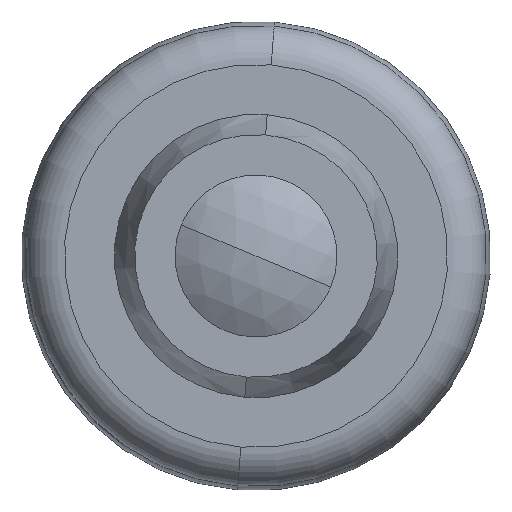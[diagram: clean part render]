
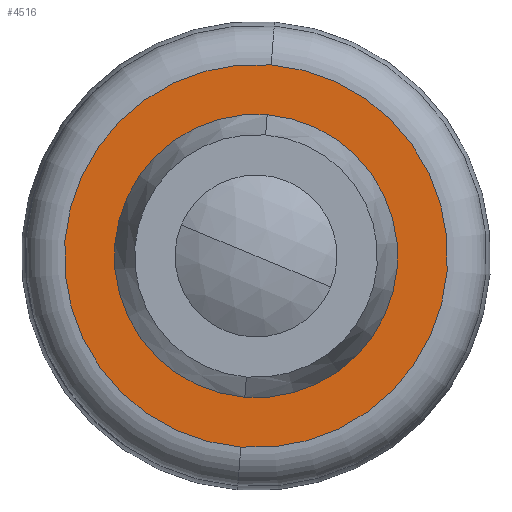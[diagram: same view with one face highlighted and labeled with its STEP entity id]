
A CAD part, left-side view. The second image highlights one B-rep face of the part: STEP entity #4516.
In plain terms, the highlighted planar face has unit normal (-1, 0, 0) as drawn and (1, 0, 0) by its records, which use the part's own axes.
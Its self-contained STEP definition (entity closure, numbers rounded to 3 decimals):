
#208 = CARTESIAN_POINT ( 'NONE',  ( 7.1, 0., 0. ) ) ;
#285 = AXIS2_PLACEMENT_3D ( 'NONE', #3506, #789, #5279 ) ;
#306 = DIRECTION ( 'NONE',  ( -1., 0., 0. ) ) ;
#344 = ORIENTED_EDGE ( 'NONE', *, *, #3434, .F. ) ;
#427 = FACE_BOUND ( 'NONE', #4484, .T. ) ;
#435 = CIRCLE ( 'NONE', #758, 1.75 ) ;
#442 = CARTESIAN_POINT ( 'NONE',  ( 7.1, 0., -1.75 ) ) ;
#758 = AXIS2_PLACEMENT_3D ( 'NONE', #4281, #306, #5612 ) ;
#789 = DIRECTION ( 'NONE',  ( -1., 0., 0. ) ) ;
#930 = CARTESIAN_POINT ( 'NONE',  ( 7.1, 0., -2.368 ) ) ;
#1083 = DIRECTION ( 'NONE',  ( 0., 0., 1. ) ) ;
#1388 = DIRECTION ( 'NONE',  ( -1., 0., 0. ) ) ;
#1511 = ORIENTED_EDGE ( 'NONE', *, *, #4151, .T. ) ;
#1880 = CIRCLE ( 'NONE', #4778, 2.368 ) ;
#1954 = DIRECTION ( 'NONE',  ( -1., 0., 0. ) ) ;
#1989 = VERTEX_POINT ( 'NONE', #442 ) ;
#2024 = ORIENTED_EDGE ( 'NONE', *, *, #3766, .F. ) ;
#2170 = CIRCLE ( 'NONE', #3009, 2.368 ) ;
#2230 = CIRCLE ( 'NONE', #2607, 1.75 ) ;
#2267 = VERTEX_POINT ( 'NONE', #930 ) ;
#2371 = CARTESIAN_POINT ( 'NONE',  ( 7.1, 0., 0. ) ) ;
#2392 = DIRECTION ( 'NONE',  ( 0., 0., 1. ) ) ;
#2452 = DIRECTION ( 'NONE',  ( -1., 0., 0. ) ) ;
#2607 = AXIS2_PLACEMENT_3D ( 'NONE', #2371, #1388, #2739 ) ;
#2739 = DIRECTION ( 'NONE',  ( 0., 0., 1. ) ) ;
#2841 = VERTEX_POINT ( 'NONE', #2914 ) ;
#2914 = CARTESIAN_POINT ( 'NONE',  ( 7.1, 0., 2.368 ) ) ;
#3009 = AXIS2_PLACEMENT_3D ( 'NONE', #208, #2452, #1083 ) ;
#3188 = EDGE_LOOP ( 'NONE', ( #344, #2024 ) ) ;
#3434 = EDGE_CURVE ( 'NONE', #2841, #2267, #2170, .T. ) ;
#3506 = CARTESIAN_POINT ( 'NONE',  ( 7.1, 0., -2.368 ) ) ;
#3766 = EDGE_CURVE ( 'NONE', #2267, #2841, #1880, .T. ) ;
#3903 = PLANE ( 'NONE',  #285 ) ;
#3954 = VERTEX_POINT ( 'NONE', #5193 ) ;
#4151 = EDGE_CURVE ( 'NONE', #1989, #3954, #2230, .T. ) ;
#4281 = CARTESIAN_POINT ( 'NONE',  ( 7.1, 0., 0. ) ) ;
#4404 = EDGE_CURVE ( 'NONE', #3954, #1989, #435, .T. ) ;
#4412 = ORIENTED_EDGE ( 'NONE', *, *, #4404, .T. ) ;
#4484 = EDGE_LOOP ( 'NONE', ( #4412, #1511 ) ) ;
#4516 = ADVANCED_FACE ( 'NONE', ( #5043, #427 ), #3903, .F. ) ;
#4778 = AXIS2_PLACEMENT_3D ( 'NONE', #5462, #1954, #2392 ) ;
#5043 = FACE_OUTER_BOUND ( 'NONE', #3188, .T. ) ;
#5193 = CARTESIAN_POINT ( 'NONE',  ( 7.1, 0., 1.75 ) ) ;
#5279 = DIRECTION ( 'NONE',  ( 0., 0., 1. ) ) ;
#5462 = CARTESIAN_POINT ( 'NONE',  ( 7.1, 0., 0. ) ) ;
#5612 = DIRECTION ( 'NONE',  ( 0., 0., 1. ) ) ;
